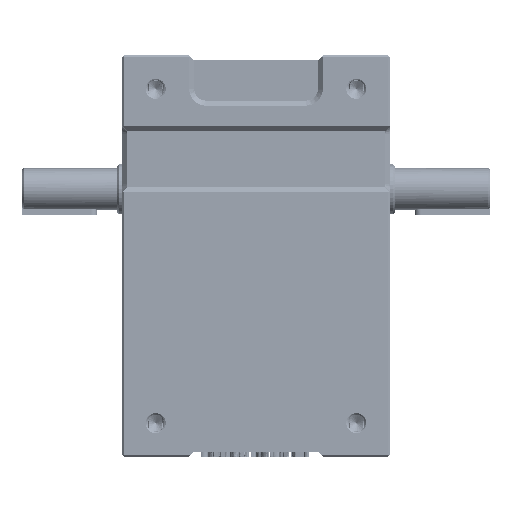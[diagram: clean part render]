
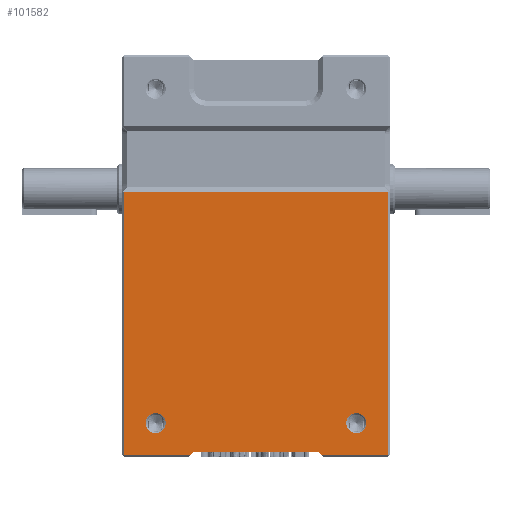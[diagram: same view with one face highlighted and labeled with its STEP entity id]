
A CAD part, front view. The second image highlights one B-rep face of the part: STEP entity #101582.
In plain terms, the highlighted planar face has unit normal (0, -1, 0).
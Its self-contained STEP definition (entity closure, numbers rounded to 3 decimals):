
#1802 = VERTEX_POINT ( 'NONE', #253239 ) ;
#2149 = VERTEX_POINT ( 'NONE', #237328 ) ;
#5266 = ORIENTED_EDGE ( 'NONE', *, *, #144126, .F. ) ;
#8685 = DIRECTION ( 'NONE',  ( 1., 0., 0. ) ) ;
#9325 = DIRECTION ( 'NONE',  ( 0., -1., 0. ) ) ;
#9433 = ORIENTED_EDGE ( 'NONE', *, *, #182648, .F. ) ;
#13031 = CARTESIAN_POINT ( 'NONE',  ( -60., 0., -100. ) ) ;
#19560 = CARTESIAN_POINT ( 'NONE',  ( 37., 0., -117. ) ) ;
#22167 = DIRECTION ( 'NONE',  ( 0., 0., 1. ) ) ;
#25631 = CARTESIAN_POINT ( 'NONE',  ( 39., 0., -119. ) ) ;
#26745 = VERTEX_POINT ( 'NONE', #114155 ) ;
#31219 = LINE ( 'NONE', #148141, #119525 ) ;
#32111 = CIRCLE ( 'NONE', #254760, 6. ) ;
#33332 = DIRECTION ( 'NONE',  ( 0., 0., 1. ) ) ;
#40152 = AXIS2_PLACEMENT_3D ( 'NONE', #104786, #245685, #125003 ) ;
#45074 = EDGE_LOOP ( 'NONE', ( #153453, #127421 ) ) ;
#45581 = VERTEX_POINT ( 'NONE', #19560 ) ;
#46717 = CARTESIAN_POINT ( 'NONE',  ( -60., 0., -94. ) ) ;
#48743 = VECTOR ( 'NONE', #140939, 1000. ) ;
#51049 = VECTOR ( 'NONE', #113908, 1000. ) ;
#53380 = CARTESIAN_POINT ( 'NONE',  ( 79., 0., -119. ) ) ;
#54330 = VERTEX_POINT ( 'NONE', #76940 ) ;
#55357 = FACE_BOUND ( 'NONE', #45074, .T. ) ;
#55550 = AXIS2_PLACEMENT_3D ( 'NONE', #13031, #154098, #33332 ) ;
#59603 = CARTESIAN_POINT ( 'NONE',  ( 79., 0., 0. ) ) ;
#66342 = DIRECTION ( 'NONE',  ( -0.707, 0., 0.707 ) ) ;
#66829 = ORIENTED_EDGE ( 'NONE', *, *, #67275, .F. ) ;
#67275 = EDGE_CURVE ( 'NONE', #26745, #54330, #229862, .T. ) ;
#67541 = LINE ( 'NONE', #129465, #228238 ) ;
#67711 = ORIENTED_EDGE ( 'NONE', *, *, #223982, .F. ) ;
#68626 = DIRECTION ( 'NONE',  ( 0., -1., 0. ) ) ;
#73135 = EDGE_CURVE ( 'NONE', #146546, #185977, #175749, .T. ) ;
#75471 = VECTOR ( 'NONE', #90873, 1000. ) ;
#76940 = CARTESIAN_POINT ( 'NONE',  ( -79., 0., 38. ) ) ;
#79893 = DIRECTION ( 'NONE',  ( 0., 0., -1. ) ) ;
#87132 = EDGE_CURVE ( 'NONE', #185977, #146546, #190183, .T. ) ;
#87167 = VECTOR ( 'NONE', #200138, 1000. ) ;
#90873 = DIRECTION ( 'NONE',  ( 0., 0., 1. ) ) ;
#91687 = EDGE_CURVE ( 'NONE', #159400, #180766, #32111, .T. ) ;
#95899 = EDGE_LOOP ( 'NONE', ( #165171, #228001 ) ) ;
#96613 = AXIS2_PLACEMENT_3D ( 'NONE', #223143, #142985, #22167 ) ;
#98349 = LINE ( 'NONE', #254787, #51049 ) ;
#98802 = CARTESIAN_POINT ( 'NONE',  ( 60., 0., -106. ) ) ;
#101582 = ADVANCED_FACE ( 'NONE', ( #55357, #108953, #162469 ), #102522, .F. ) ;
#102522 = PLANE ( 'NONE',  #96613 ) ;
#104786 = CARTESIAN_POINT ( 'NONE',  ( 60., 0., -100. ) ) ;
#105577 = VECTOR ( 'NONE', #79893, 1000. ) ;
#108953 = FACE_BOUND ( 'NONE', #95899, .T. ) ;
#111913 = LINE ( 'NONE', #59603, #105577 ) ;
#113890 = EDGE_CURVE ( 'NONE', #196725, #1802, #98349, .T. ) ;
#113908 = DIRECTION ( 'NONE',  ( -0.707, 0., -0.707 ) ) ;
#114155 = CARTESIAN_POINT ( 'NONE',  ( -79., 0., -119. ) ) ;
#119525 = VECTOR ( 'NONE', #168376, 1000. ) ;
#120677 = CARTESIAN_POINT ( 'NONE',  ( 0., 0., -119. ) ) ;
#125003 = DIRECTION ( 'NONE',  ( 0., 0., 1. ) ) ;
#125440 = AXIS2_PLACEMENT_3D ( 'NONE', #189197, #68626, #209430 ) ;
#127421 = ORIENTED_EDGE ( 'NONE', *, *, #91687, .F. ) ;
#129465 = CARTESIAN_POINT ( 'NONE',  ( 0., 0., 38. ) ) ;
#130111 = CARTESIAN_POINT ( 'NONE',  ( -60., 0., -100. ) ) ;
#131674 = EDGE_CURVE ( 'NONE', #180766, #159400, #226094, .T. ) ;
#133367 = EDGE_LOOP ( 'NONE', ( #213092, #208114, #244006, #5266, #67711, #168532, #9433, #66829 ) ) ;
#134369 = LINE ( 'NONE', #223880, #87167 ) ;
#140680 = EDGE_CURVE ( 'NONE', #2149, #185030, #111913, .T. ) ;
#140939 = DIRECTION ( 'NONE',  ( -1., 0., 0. ) ) ;
#142985 = DIRECTION ( 'NONE',  ( 0., 1., 0. ) ) ;
#144126 = EDGE_CURVE ( 'NONE', #210408, #45581, #180847, .T. ) ;
#146546 = VERTEX_POINT ( 'NONE', #241994 ) ;
#148141 = CARTESIAN_POINT ( 'NONE',  ( 0., 0., -117. ) ) ;
#150398 = DIRECTION ( 'NONE',  ( 0., 0., 1. ) ) ;
#153453 = ORIENTED_EDGE ( 'NONE', *, *, #131674, .F. ) ;
#154098 = DIRECTION ( 'NONE',  ( 0., -1., 0. ) ) ;
#159400 = VERTEX_POINT ( 'NONE', #46717 ) ;
#162469 = FACE_OUTER_BOUND ( 'NONE', #133367, .T. ) ;
#165171 = ORIENTED_EDGE ( 'NONE', *, *, #73135, .F. ) ;
#165194 = EDGE_CURVE ( 'NONE', #45581, #196725, #31219, .T. ) ;
#168376 = DIRECTION ( 'NONE',  ( -1., 0., 0. ) ) ;
#168532 = ORIENTED_EDGE ( 'NONE', *, *, #140680, .F. ) ;
#172982 = CARTESIAN_POINT ( 'NONE',  ( -60., 0., -106. ) ) ;
#173463 = CARTESIAN_POINT ( 'NONE',  ( 39., 0., -119. ) ) ;
#175749 = CIRCLE ( 'NONE', #125440, 6. ) ;
#180766 = VERTEX_POINT ( 'NONE', #172982 ) ;
#180847 = LINE ( 'NONE', #25631, #187163 ) ;
#180989 = EDGE_CURVE ( 'NONE', #1802, #26745, #209483, .T. ) ;
#182648 = EDGE_CURVE ( 'NONE', #54330, #2149, #67541, .T. ) ;
#185030 = VERTEX_POINT ( 'NONE', #53380 ) ;
#185977 = VERTEX_POINT ( 'NONE', #98802 ) ;
#187163 = VECTOR ( 'NONE', #66342, 1000. ) ;
#189197 = CARTESIAN_POINT ( 'NONE',  ( 60., 0., -100. ) ) ;
#189443 = CARTESIAN_POINT ( 'NONE',  ( -79., 0., 0. ) ) ;
#190183 = CIRCLE ( 'NONE', #40152, 6. ) ;
#196725 = VERTEX_POINT ( 'NONE', #241059 ) ;
#200138 = DIRECTION ( 'NONE',  ( -1., 0., 0. ) ) ;
#208114 = ORIENTED_EDGE ( 'NONE', *, *, #113890, .F. ) ;
#209430 = DIRECTION ( 'NONE',  ( 0., 0., 1. ) ) ;
#209483 = LINE ( 'NONE', #120677, #48743 ) ;
#210408 = VERTEX_POINT ( 'NONE', #173463 ) ;
#213092 = ORIENTED_EDGE ( 'NONE', *, *, #180989, .F. ) ;
#223143 = CARTESIAN_POINT ( 'NONE',  ( 0., 0., 0. ) ) ;
#223880 = CARTESIAN_POINT ( 'NONE',  ( 0., 0., -119. ) ) ;
#223982 = EDGE_CURVE ( 'NONE', #185030, #210408, #134369, .T. ) ;
#226094 = CIRCLE ( 'NONE', #55550, 6. ) ;
#228001 = ORIENTED_EDGE ( 'NONE', *, *, #87132, .F. ) ;
#228238 = VECTOR ( 'NONE', #8685, 1000. ) ;
#229862 = LINE ( 'NONE', #189443, #75471 ) ;
#237328 = CARTESIAN_POINT ( 'NONE',  ( 79., 0., 38. ) ) ;
#241059 = CARTESIAN_POINT ( 'NONE',  ( -37., 0., -117. ) ) ;
#241994 = CARTESIAN_POINT ( 'NONE',  ( 60., 0., -94. ) ) ;
#244006 = ORIENTED_EDGE ( 'NONE', *, *, #165194, .F. ) ;
#245685 = DIRECTION ( 'NONE',  ( 0., -1., 0. ) ) ;
#253239 = CARTESIAN_POINT ( 'NONE',  ( -39., 0., -119. ) ) ;
#254760 = AXIS2_PLACEMENT_3D ( 'NONE', #130111, #9325, #150398 ) ;
#254787 = CARTESIAN_POINT ( 'NONE',  ( -37., 0., -117. ) ) ;
